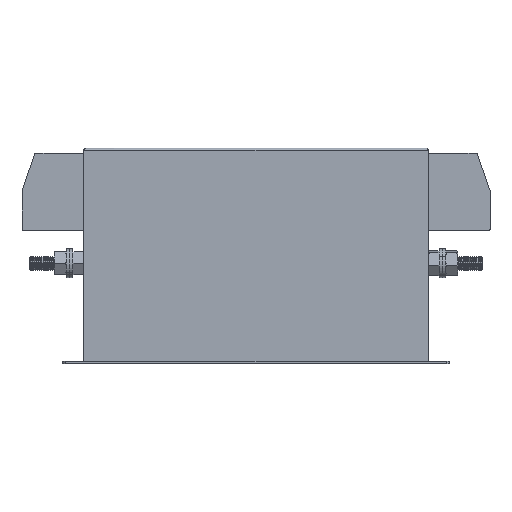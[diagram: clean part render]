
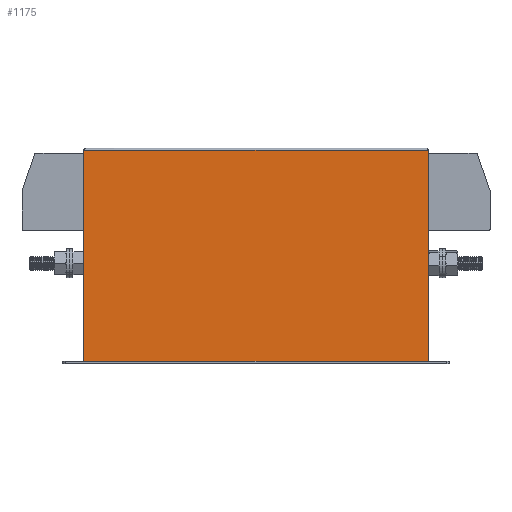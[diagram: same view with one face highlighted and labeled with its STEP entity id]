
A CAD part, top view. The second image highlights one B-rep face of the part: STEP entity #1175.
In plain terms, the highlighted planar face has unit normal (0, 0, 1).
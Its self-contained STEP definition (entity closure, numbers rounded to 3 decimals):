
#1024 = VERTEX_POINT ( 'NONE', #4868 ) ;
#1030 = VERTEX_POINT ( 'NONE', #4858 ) ;
#1032 = EDGE_CURVE ( 'NONE', #1024, #1030, #4923, .T. ) ;
#1111 = EDGE_CURVE ( 'NONE', #1112, #1024, #5066, .T. ) ;
#1112 = VERTEX_POINT ( 'NONE', #5062 ) ;
#1119 = EDGE_LOOP ( 'NONE', ( #1176, #1179, #1181, #1182 ) ) ;
#1175 = ADVANCED_FACE ( 'NONE', ( #5102 ), #5101, .F. ) ;
#1176 = ORIENTED_EDGE ( 'NONE', *, *, #1177, .F. ) ;
#1177 = EDGE_CURVE ( 'NONE', #1178, #1030, #5158, .T. ) ;
#1178 = VERTEX_POINT ( 'NONE', #5154 ) ;
#1179 = ORIENTED_EDGE ( 'NONE', *, *, #1180, .T. ) ;
#1180 = EDGE_CURVE ( 'NONE', #1178, #1112, #5153, .T. ) ;
#1181 = ORIENTED_EDGE ( 'NONE', *, *, #1111, .T. ) ;
#1182 = ORIENTED_EDGE ( 'NONE', *, *, #1032, .T. ) ;
#4858 = CARTESIAN_POINT ( 'NONE',  ( 255., 1.5, 1.5 ) ) ;
#4868 = CARTESIAN_POINT ( 'NONE',  ( 15., 1.5, 1.5 ) ) ;
#4920 = DIRECTION ( 'NONE',  ( 1., 0., 0. ) ) ;
#4921 = VECTOR ( 'NONE', #4920, 1000. ) ;
#4922 = CARTESIAN_POINT ( 'NONE',  ( 15., 1.5, 1.5 ) ) ;
#4923 = LINE ( 'NONE', #4922, #4921 ) ;
#5062 = CARTESIAN_POINT ( 'NONE',  ( 15., 148.5, 1.5 ) ) ;
#5063 = DIRECTION ( 'NONE',  ( 0., -1., 0. ) ) ;
#5064 = VECTOR ( 'NONE', #5063, 1000. ) ;
#5065 = CARTESIAN_POINT ( 'NONE',  ( 15., 150., 1.5 ) ) ;
#5066 = LINE ( 'NONE', #5065, #5064 ) ;
#5101 = PLANE ( 'NONE',  #5162 ) ;
#5102 = FACE_OUTER_BOUND ( 'NONE', #1119, .T. ) ;
#5150 = DIRECTION ( 'NONE',  ( -1., 0., 0. ) ) ;
#5151 = VECTOR ( 'NONE', #5150, 1000. ) ;
#5152 = CARTESIAN_POINT ( 'NONE',  ( 15., 148.5, 1.5 ) ) ;
#5153 = LINE ( 'NONE', #5152, #5151 ) ;
#5154 = CARTESIAN_POINT ( 'NONE',  ( 255., 148.5, 1.5 ) ) ;
#5155 = DIRECTION ( 'NONE',  ( 0., -1., 0. ) ) ;
#5156 = VECTOR ( 'NONE', #5155, 1000. ) ;
#5157 = CARTESIAN_POINT ( 'NONE',  ( 255., 150., 1.5 ) ) ;
#5158 = LINE ( 'NONE', #5157, #5156 ) ;
#5159 = DIRECTION ( 'NONE',  ( -1., 0., 0. ) ) ;
#5160 = DIRECTION ( 'NONE',  ( 0., 0., -1. ) ) ;
#5161 = CARTESIAN_POINT ( 'NONE',  ( 15., 150., 1.5 ) ) ;
#5162 = AXIS2_PLACEMENT_3D ( 'NONE', #5161, #5160, #5159 ) ;
